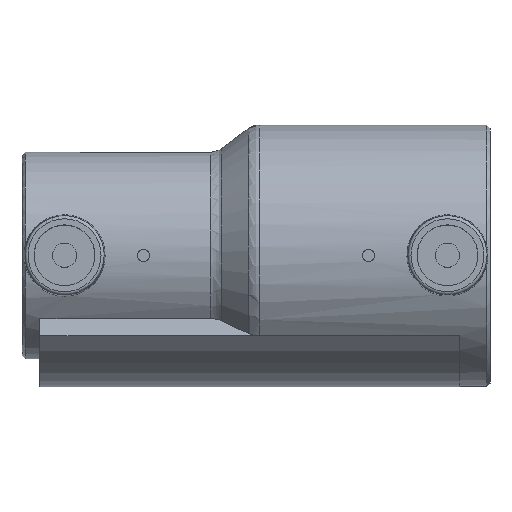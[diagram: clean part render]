
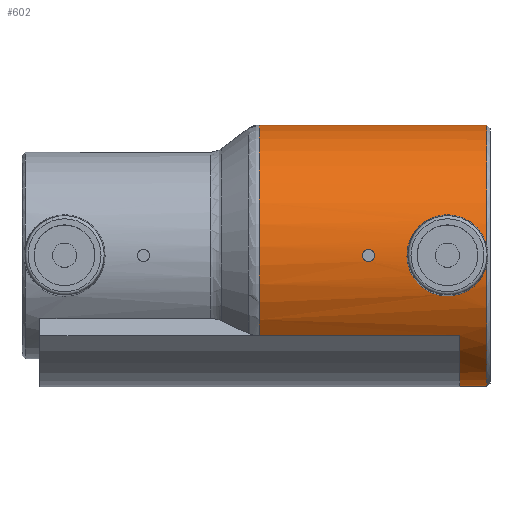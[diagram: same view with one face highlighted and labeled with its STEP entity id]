
A CAD part, top view. The second image highlights one B-rep face of the part: STEP entity #602.
In plain terms, the highlighted cylindrical face has radius 21.5 mm (diameter 43 mm), a full revolution.
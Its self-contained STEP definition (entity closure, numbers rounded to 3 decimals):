
#52=LINE('',#1013,#79);
#53=LINE('',#1017,#80);
#79=VECTOR('',#761,1000.);
#80=VECTOR('',#764,1000.);
#107=CIRCLE('',#664,21.5);
#108=CIRCLE('',#665,21.5);
#109=CIRCLE('',#666,21.5);
#153=ORIENTED_EDGE('',*,*,#311,.T.);
#154=ORIENTED_EDGE('',*,*,#312,.T.);
#155=ORIENTED_EDGE('',*,*,#313,.F.);
#156=ORIENTED_EDGE('',*,*,#314,.T.);
#157=ORIENTED_EDGE('',*,*,#315,.T.);
#158=ORIENTED_EDGE('',*,*,#316,.T.);
#159=ORIENTED_EDGE('',*,*,#317,.F.);
#160=ORIENTED_EDGE('',*,*,#318,.T.);
#311=EDGE_CURVE('',#390,#391,#442,.T.);
#312=EDGE_CURVE('',#391,#390,#443,.T.);
#313=EDGE_CURVE('',#392,#393,#107,.T.);
#314=EDGE_CURVE('',#392,#394,#52,.T.);
#315=EDGE_CURVE('',#394,#395,#108,.T.);
#316=EDGE_CURVE('',#395,#393,#53,.F.);
#317=EDGE_CURVE('',#396,#397,#444,.T.);
#318=EDGE_CURVE('',#396,#397,#109,.T.);
#390=VERTEX_POINT('',#1001);
#391=VERTEX_POINT('',#1002);
#392=VERTEX_POINT('',#1011);
#393=VERTEX_POINT('',#1012);
#394=VERTEX_POINT('',#1014);
#395=VERTEX_POINT('',#1016);
#396=VERTEX_POINT('',#1036);
#397=VERTEX_POINT('',#1037);
#442=B_SPLINE_CURVE_WITH_KNOTS('',3,(#994,#995,#996,#997,#998,#999,#1000),
 .UNSPECIFIED.,.F.,.F.,(4,1,1,1,4),(0.003,0.004,
0.005,0.005,0.006),
 .UNSPECIFIED.);
#443=B_SPLINE_CURVE_WITH_KNOTS('',3,(#1003,#1004,#1005,#1006,#1007,#1008,
#1009),.UNSPECIFIED.,.F.,.F.,(4,1,1,1,4),(0.,0.001,0.002,
0.002,0.003),.UNSPECIFIED.);
#444=B_SPLINE_CURVE_WITH_KNOTS('',3,(#1018,#1019,#1020,#1021,#1022,#1023,
#1024,#1025,#1026,#1027,#1028,#1029,#1030,#1031,#1032,#1033,#1034,#1035),
 .UNSPECIFIED.,.F.,.F.,(4,1,1,1,1,1,1,1,1,1,1,1,1,1,1,4),(0.,
0.002,0.005,0.007,0.01,
0.012,0.015,0.017,0.019,
0.022,0.024,0.027,0.029,
0.032,0.034,0.039),.UNSPECIFIED.);
#453=EDGE_LOOP('',(#153,#154));
#454=EDGE_LOOP('',(#155,#156,#157,#158));
#455=EDGE_LOOP('',(#159,#160));
#521=FACE_BOUND('',#453,.T.);
#522=FACE_BOUND('',#454,.T.);
#523=FACE_BOUND('',#455,.T.);
#587=CYLINDRICAL_SURFACE('',#663,21.5);
#602=ADVANCED_FACE('',(#521,#522,#523),#587,.T.);
#663=AXIS2_PLACEMENT_3D('',#993,#757,#758);
#664=AXIS2_PLACEMENT_3D('',#1010,#759,#760);
#665=AXIS2_PLACEMENT_3D('',#1015,#762,#763);
#666=AXIS2_PLACEMENT_3D('',#1038,#765,#766);
#757=DIRECTION('',(-1.,0.,0.));
#758=DIRECTION('',(0.,0.,1.));
#759=DIRECTION('',(-1.,0.,0.));
#760=DIRECTION('',(0.,0.,1.));
#761=DIRECTION('',(-1.,0.,0.));
#762=DIRECTION('',(1.,0.,0.));
#763=DIRECTION('',(0.,0.,-1.));
#764=DIRECTION('',(-1.,0.,0.));
#765=DIRECTION('',(-1.,0.,0.));
#766=DIRECTION('',(0.,0.,1.));
#993=CARTESIAN_POINT('',(-60.,0.,0.));
#994=CARTESIAN_POINT('',(18.,0.,21.5));
#995=CARTESIAN_POINT('',(18.,0.261,21.5));
#996=CARTESIAN_POINT('',(18.216,0.783,21.488));
#997=CARTESIAN_POINT('',(18.999,1.109,21.471));
#998=CARTESIAN_POINT('',(19.783,0.783,21.488));
#999=CARTESIAN_POINT('',(20.,0.264,21.5));
#1000=CARTESIAN_POINT('',(20.,0.,21.5));
#1001=CARTESIAN_POINT('',(18.,0.,21.5));
#1002=CARTESIAN_POINT('',(20.,0.,21.5));
#1003=CARTESIAN_POINT('',(20.,0.,21.5));
#1004=CARTESIAN_POINT('',(20.,-0.264,21.5));
#1005=CARTESIAN_POINT('',(19.783,-0.782,21.488));
#1006=CARTESIAN_POINT('',(19.001,-1.108,21.471));
#1007=CARTESIAN_POINT('',(18.216,-0.784,21.488));
#1008=CARTESIAN_POINT('',(18.,-0.261,21.5));
#1009=CARTESIAN_POINT('',(18.,0.,21.5));
#1010=CARTESIAN_POINT('',(34.,0.,0.));
#1011=CARTESIAN_POINT('',(34.,-21.5,0.));
#1012=CARTESIAN_POINT('',(34.,-13.181,16.985));
#1013=CARTESIAN_POINT('',(-60.,-21.5,0.));
#1014=CARTESIAN_POINT('',(1.,-21.5,0.));
#1015=CARTESIAN_POINT('',(1.,0.,0.));
#1016=CARTESIAN_POINT('',(1.,-13.181,16.985));
#1017=CARTESIAN_POINT('',(-60.,-13.181,16.985));
#1018=CARTESIAN_POINT('',(38.5,1.46,21.45));
#1019=CARTESIAN_POINT('',(38.32,2.262,21.396));
#1020=CARTESIAN_POINT('',(37.674,3.768,21.201));
#1021=CARTESIAN_POINT('',(35.968,5.542,20.791));
#1022=CARTESIAN_POINT('',(33.737,6.596,20.466));
#1023=CARTESIAN_POINT('',(31.251,6.782,20.402));
#1024=CARTESIAN_POINT('',(28.875,6.06,20.639));
#1025=CARTESIAN_POINT('',(26.933,4.554,21.04));
#1026=CARTESIAN_POINT('',(25.646,2.456,21.402));
#1027=CARTESIAN_POINT('',(25.187,0.01,21.549));
#1028=CARTESIAN_POINT('',(25.639,-2.44,21.404));
#1029=CARTESIAN_POINT('',(26.926,-4.547,21.042));
#1030=CARTESIAN_POINT('',(28.867,-6.055,20.64));
#1031=CARTESIAN_POINT('',(31.239,-6.78,20.402));
#1032=CARTESIAN_POINT('',(33.728,-6.599,20.464));
#1033=CARTESIAN_POINT('',(36.711,-5.194,20.901));
#1034=CARTESIAN_POINT('',(38.14,-3.065,21.341));
#1035=CARTESIAN_POINT('',(38.5,-1.46,21.45));
#1036=CARTESIAN_POINT('',(38.5,1.46,21.45));
#1037=CARTESIAN_POINT('',(38.5,-1.46,21.45));
#1038=CARTESIAN_POINT('',(38.5,0.,0.));
